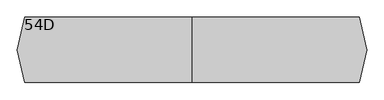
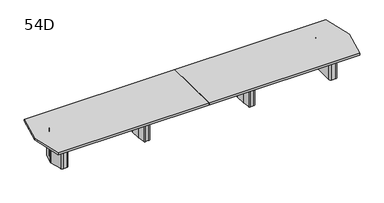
"""IFC4 building model written with IfcOpenShell, lengths in millimetres: furniture geometry, Coalesse_AM_Table_Conference_ETable2_Faceted_24ft_FourBase : 54D."""

from ifc_helpers import new_model, si_unit, frame, origin, place, context, project, spatial, polyline, circle_curve, outline, extrude, source, transform, mapped, element, save
from ifc_brep_helpers import plane_surface, cylinder_surface, revolved_surface, advanced_brep


def furniture_54d_43be985f(model_context):
    return source(origin(), model_context, "Body", "SolidModel", [
        advanced_brep(
        [(1254.91875, 206.375, 3.175), (1229.51875, 231.775, 3.175), (1208.88125, 231.775, 3.175), (1183.48125, 206.375, 3.175), (1183.48125, -206.375, 3.175), (1208.88125, -231.775, 3.175), (1229.51875, -231.775, 3.175), (1254.91875, -206.375, 3.175), (1158.08125, 206.375, 0.0), (1208.88125, 257.175, 0.0), (1229.51875, 257.175, 0.0), (1280.31875, 206.375, 0.0), (1280.31875, -206.375, 0.0), (1229.51875, -257.175, 0.0), (1208.88125, -257.175, 0.0), (1158.08125, -206.375, 0.0), (1158.08125, -206.375, 3.175), (1158.08125, 206.375, 3.175), (1208.88125, -257.175, 3.175), (1229.51875, -257.175, 3.175), (1280.31875, -206.375, 3.175), (1280.31875, 206.375, 3.175), (1229.51875, 257.175, 3.175), (1208.88125, 257.175, 3.175), (1126.5784026, 106.2976848, 698.5), (1126.33125, 102.7629613, 698.5), (1126.33125, -102.7629613, 698.5), (1126.5784026, -106.2976848, 698.5), (1151.4011625, -282.9347235, 698.5), (1176.5540098, -304.8, 698.5), (1261.8459902, -304.8, 698.5), (1286.9988375, -282.9347235, 698.5), (1311.8215974, -106.2976848, 698.5), (1312.06875, -102.7629613, 698.5), (1312.06875, 102.7629613, 698.5), (1311.8215974, 106.2976848, 698.5), (1286.9988375, 282.9347235, 698.5), (1261.8459902, 304.8, 698.5), (1176.5540098, 304.8, 698.5), (1151.4011625, 282.9347235, 698.5), (1229.51875, 231.775, 698.5), (1254.91875, 206.375, 698.5), (1254.91875, -206.375, 698.5), (1229.51875, -231.775, 698.5), (1208.88125, -231.775, 698.5), (1183.48125, -206.375, 698.5), (1183.48125, 206.375, 698.5), (1208.88125, 231.775, 698.5), (1126.5784026, 106.2976848, 3.175), (1151.4011625, 282.9347235, 3.175), (1176.5540098, 304.8, 3.175), (1261.8459902, 304.8, 3.175), (1286.9988375, 282.9347235, 3.175), (1311.8215974, 106.2976848, 3.175), (1312.06875, 102.7629613, 3.175), (1312.06875, -102.7629613, 3.175), (1311.8215974, -106.2976848, 3.175), (1286.9988375, -282.9347235, 3.175), (1261.8459902, -304.8, 3.175), (1176.5540098, -304.8, 3.175), (1151.4011625, -282.9347235, 3.175), (1126.5784026, -106.2976848, 3.175), (1126.33125, -102.7629613, 3.175), (1126.33125, 102.7629613, 3.175)],
        [
            (0, 1, circle_curve(frame((1229.51875, 206.375, 3.175), z_axis=(0.0, 0.0, 1.0), x_axis=(1.0, 0.0, 0.0)), 25.4)),
            (1, 2),
            (2, 3, circle_curve(frame((1208.88125, 206.375, 3.175), z_axis=(0.0, 0.0, 1.0), x_axis=(1.0, 0.0, 0.0)), 25.4)),
            (3, 4),
            (4, 5, circle_curve(frame((1208.88125, -206.375, 3.175), z_axis=(0.0, 0.0, 1.0), x_axis=(1.0, 0.0, 0.0)), 25.4)),
            (5, 6),
            (6, 7, circle_curve(frame((1229.51875, -206.375, 3.175), z_axis=(0.0, 0.0, 1.0), x_axis=(1.0, 0.0, 0.0)), 25.4)),
            (7, 0),
            (8, 9, circle_curve(frame((1208.88125, 206.375, 0.0), z_axis=(0.0, 0.0, -1.0), x_axis=(1.0, 0.0, 0.0)), 50.8)),
            (9, 10),
            (10, 11, circle_curve(frame((1229.51875, 206.375, 0.0), z_axis=(0.0, 0.0, -1.0), x_axis=(1.0, 0.0, 0.0)), 50.8)),
            (11, 12),
            (12, 13, circle_curve(frame((1229.51875, -206.375, 0.0), z_axis=(0.0, 0.0, -1.0), x_axis=(1.0, 0.0, 0.0)), 50.8)),
            (13, 14),
            (14, 15, circle_curve(frame((1208.88125, -206.375, 0.0), z_axis=(0.0, 0.0, -1.0), x_axis=(1.0, 0.0, 0.0)), 50.8)),
            (15, 8),
            (15, 16),
            (16, 17),
            (17, 8),
            (14, 18),
            (18, 16, circle_curve(frame((1208.88125, -206.375, 3.175), z_axis=(0.0, 0.0, -1.0), x_axis=(1.0, 0.0, 0.0)), 50.8)),
            (13, 19),
            (19, 18),
            (12, 20),
            (20, 19, circle_curve(frame((1229.51875, -206.375, 3.175), z_axis=(0.0, 0.0, -1.0), x_axis=(1.0, 0.0, 0.0)), 50.8)),
            (11, 21),
            (21, 20),
            (10, 22),
            (22, 21, circle_curve(frame((1229.51875, 206.375, 3.175), z_axis=(0.0, 0.0, -1.0), x_axis=(1.0, 0.0, 0.0)), 50.8)),
            (9, 23),
            (23, 22),
            (17, 23, circle_curve(frame((1208.88125, 206.375, 3.175), z_axis=(0.0, 0.0, -1.0), x_axis=(1.0, 0.0, 0.0)), 50.8)),
            (24, 25, circle_curve(frame((1151.73125, 102.7629613, 698.5), z_axis=(0.0, 0.0, 1.0), x_axis=(1.0, 0.0, 0.0)), 25.4)),
            (25, 26),
            (26, 27, circle_curve(frame((1151.73125, -102.7629613, 698.5), z_axis=(0.0, 0.0, 1.0), x_axis=(1.0, 0.0, 0.0)), 25.4)),
            (27, 28),
            (28, 29, circle_curve(frame((1176.5540098, -279.4, 698.5), z_axis=(0.0, 0.0, 1.0), x_axis=(1.0, 0.0, 0.0)), 25.4)),
            (29, 30),
            (30, 31, circle_curve(frame((1261.8459902, -279.4, 698.5), z_axis=(0.0, 0.0, 1.0), x_axis=(1.0, 0.0, 0.0)), 25.4)),
            (31, 32),
            (32, 33, circle_curve(frame((1286.66875, -102.7629613, 698.5), z_axis=(0.0, 0.0, 1.0), x_axis=(1.0, 0.0, 0.0)), 25.4)),
            (33, 34),
            (34, 35, circle_curve(frame((1286.66875, 102.7629613, 698.5), z_axis=(0.0, 0.0, 1.0), x_axis=(1.0, 0.0, 0.0)), 25.4)),
            (35, 36),
            (36, 37, circle_curve(frame((1261.8459902, 279.4, 698.5), z_axis=(0.0, 0.0, 1.0), x_axis=(1.0, 0.0, 0.0)), 25.4)),
            (37, 38),
            (38, 39, circle_curve(frame((1176.5540098, 279.4, 698.5), z_axis=(0.0, 0.0, 1.0), x_axis=(1.0, 0.0, 0.0)), 25.4)),
            (39, 24),
            (40, 41, circle_curve(frame((1229.51875, 206.375, 698.5), z_axis=(0.0, 0.0, -1.0), x_axis=(1.0, 0.0, 0.0)), 25.4)),
            (41, 42),
            (42, 43, circle_curve(frame((1229.51875, -206.375, 698.5), z_axis=(0.0, 0.0, -1.0), x_axis=(1.0, 0.0, 0.0)), 25.4)),
            (43, 44),
            (44, 45, circle_curve(frame((1208.88125, -206.375, 698.5), z_axis=(0.0, 0.0, -1.0), x_axis=(1.0, 0.0, 0.0)), 25.4)),
            (45, 46),
            (46, 47, circle_curve(frame((1208.88125, 206.375, 698.5), z_axis=(0.0, 0.0, -1.0), x_axis=(1.0, 0.0, 0.0)), 25.4)),
            (47, 40),
            (48, 49),
            (49, 50, circle_curve(frame((1176.5540098, 279.4, 3.175), z_axis=(0.0, 0.0, -1.0), x_axis=(1.0, 0.0, 0.0)), 25.4)),
            (50, 51),
            (51, 52, circle_curve(frame((1261.8459902, 279.4, 3.175), z_axis=(0.0, 0.0, -1.0), x_axis=(1.0, 0.0, 0.0)), 25.4)),
            (52, 53),
            (53, 54, circle_curve(frame((1286.66875, 102.7629613, 3.175), z_axis=(0.0, 0.0, -1.0), x_axis=(1.0, 0.0, 0.0)), 25.4)),
            (54, 55),
            (55, 56, circle_curve(frame((1286.66875, -102.7629613, 3.175), z_axis=(0.0, 0.0, -1.0), x_axis=(1.0, 0.0, 0.0)), 25.4)),
            (56, 57),
            (57, 58, circle_curve(frame((1261.8459902, -279.4, 3.175), z_axis=(0.0, 0.0, -1.0), x_axis=(1.0, 0.0, 0.0)), 25.4)),
            (58, 59),
            (59, 60, circle_curve(frame((1176.5540098, -279.4, 3.175), z_axis=(0.0, 0.0, -1.0), x_axis=(1.0, 0.0, 0.0)), 25.4)),
            (60, 61),
            (61, 62, circle_curve(frame((1151.73125, -102.7629613, 3.175), z_axis=(0.0, 0.0, -1.0), x_axis=(1.0, 0.0, 0.0)), 25.4)),
            (62, 63),
            (63, 48, circle_curve(frame((1151.73125, 102.7629613, 3.175), z_axis=(0.0, 0.0, -1.0), x_axis=(1.0, 0.0, 0.0)), 25.4)),
            (24, 48),
            (63, 25),
            (62, 26),
            (61, 27),
            (60, 28),
            (59, 29),
            (58, 30),
            (57, 31),
            (56, 32),
            (55, 33),
            (54, 34),
            (53, 35),
            (52, 36),
            (51, 37),
            (50, 38),
            (49, 39),
            (40, 1),
            (0, 41),
            (7, 42),
            (6, 43),
            (5, 44),
            (4, 45),
            (3, 46),
            (2, 47),
        ],
        [
            plane_surface(frame((1158.08125, -206.375, 3.175), z_axis=(0.0, 0.0, 1.0), x_axis=(0.0, -1.0, 0.0))),
            plane_surface(frame((1158.08125, -206.375, 0.0), z_axis=(0.0, 0.0, -1.0), x_axis=(0.0, 1.0, 0.0))),
            plane_surface(frame((1158.08125, 206.375, 3.175), z_axis=(-1.0, 0.0, 0.0), x_axis=(0.0, 0.0, -1.0))),
            cylinder_surface(frame((1208.88125, -206.375, 0.0), z_axis=(0.0, 0.0, 1.0), x_axis=(1.0, 0.0, 0.0)), 50.8),
            plane_surface(frame((1208.88125, -257.175, 3.175), z_axis=(0.0, -1.0, 0.0), x_axis=(0.0, 0.0, -1.0))),
            cylinder_surface(frame((1229.51875, -206.375, 0.0), z_axis=(0.0, 0.0, 1.0), x_axis=(1.0, 0.0, 0.0)), 50.8),
            plane_surface(frame((1280.31875, -206.375, 3.175), z_axis=(1.0, 0.0, 0.0), x_axis=(0.0, 0.0, -1.0))),
            cylinder_surface(frame((1229.51875, 206.375, 0.0), z_axis=(0.0, 0.0, 1.0), x_axis=(1.0, 0.0, 0.0)), 50.8),
            plane_surface(frame((1229.51875, 257.175, 3.175), z_axis=(0.0, 1.0, 0.0), x_axis=(0.0, 0.0, -1.0))),
            cylinder_surface(frame((1208.88125, 206.375, 0.0), z_axis=(0.0, 0.0, 1.0), x_axis=(1.0, 0.0, 0.0)), 50.8),
            plane_surface(frame((1177.13125, 102.7629613, 698.5), z_axis=(0.0, 0.0, 1.0), x_axis=(0.0, 1.0, 0.0))),
            plane_surface(frame((1177.13125, 102.7629613, 3.175), z_axis=(0.0, 0.0, -1.0), x_axis=(0.0, -1.0, 0.0))),
            cylinder_surface(frame((1151.73125, 102.7629613, 3.175), z_axis=(0.0, 0.0, 1.0), x_axis=(1.0, 0.0, 0.0)), 25.4),
            plane_surface(frame((1126.33125, 102.7629613, 698.5), z_axis=(-1.0, 0.0, 0.0), x_axis=(0.0, 0.0, -1.0))),
            cylinder_surface(frame((1151.73125, -102.7629613, 3.175), z_axis=(0.0, 0.0, 1.0), x_axis=(1.0, 0.0, 0.0)), 25.4),
            plane_surface(frame((1126.5784026, -106.2976848, 698.5), z_axis=(-0.9902695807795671, -0.13916234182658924, 0.0), x_axis=(0.0, 0.0, -1.0))),
            cylinder_surface(frame((1176.5540098, -279.4, 3.175), z_axis=(0.0, 0.0, 1.0), x_axis=(1.0, 0.0, 0.0)), 25.4),
            plane_surface(frame((1176.5540098, -304.8, 698.5), z_axis=(0.0, -1.0, 0.0), x_axis=(0.0, 0.0, -1.0))),
            cylinder_surface(frame((1261.8459902, -279.4, 3.175), z_axis=(0.0, 0.0, 1.0), x_axis=(1.0, 0.0, 0.0)), 25.4),
            plane_surface(frame((1286.9988375, -282.9347235, 698.5), z_axis=(0.9902695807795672, -0.13916234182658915, 0.0), x_axis=(0.0, 0.0, -1.0))),
            cylinder_surface(frame((1286.66875, -102.7629613, 3.175), z_axis=(0.0, 0.0, 1.0), x_axis=(1.0, 0.0, 0.0)), 25.4),
            plane_surface(frame((1312.06875, -102.7629613, 698.5), z_axis=(1.0, 0.0, 0.0), x_axis=(0.0, 0.0, -1.0))),
            cylinder_surface(frame((1286.66875, 102.7629613, 3.175), z_axis=(0.0, 0.0, 1.0), x_axis=(1.0, 0.0, 0.0)), 25.4),
            plane_surface(frame((1311.8215974, 106.2976848, 698.5), z_axis=(0.9902695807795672, 0.1391623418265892, 0.0), x_axis=(0.0, 0.0, -1.0))),
            cylinder_surface(frame((1261.8459902, 279.4, 3.175), z_axis=(0.0, 0.0, 1.0), x_axis=(1.0, 0.0, 0.0)), 25.4),
            plane_surface(frame((1261.8459902, 304.8, 698.5), z_axis=(0.0, 1.0, 0.0), x_axis=(0.0, 0.0, -1.0))),
            cylinder_surface(frame((1176.5540098, 279.4, 3.175), z_axis=(0.0, 0.0, 1.0), x_axis=(1.0, 0.0, 0.0)), 25.4),
            plane_surface(frame((1151.4011625, 282.9347235, 698.5), z_axis=(-0.9902695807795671, 0.13916234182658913, 0.0), x_axis=(0.0, 0.0, -1.0))),
            revolved_surface(polyline([(1254.91875, 206.375, 3.175), (1254.91875, 206.375, 698.5)]), (1229.51875, 206.375, 0.0), (0.0, 0.0, -1.0)),
            plane_surface(frame((1254.91875, 206.375, 698.5), z_axis=(-1.0, 0.0, 0.0), x_axis=(0.0, 0.0, -1.0))),
            revolved_surface(polyline([(1254.91875, -206.375, 3.175), (1254.91875, -206.375, 698.5)]), (1229.51875, -206.375, 0.0), (0.0, 0.0, -1.0)),
            plane_surface(frame((1229.51875, -231.775, 698.5), z_axis=(0.0, 1.0, 0.0), x_axis=(0.0, 0.0, -1.0))),
            revolved_surface(polyline([(1234.28125, -206.375, 3.175), (1234.28125, -206.375, 698.5)]), (1208.88125, -206.375, 0.0), (0.0, 0.0, -1.0)),
            plane_surface(frame((1183.48125, -206.375, 698.5), z_axis=(1.0, 0.0, 0.0), x_axis=(0.0, 0.0, -1.0))),
            revolved_surface(polyline([(1234.28125, 206.375, 3.175), (1234.28125, 206.375, 698.5)]), (1208.88125, 206.375, 0.0), (0.0, 0.0, -1.0)),
            plane_surface(frame((1208.88125, 231.775, 698.5), z_axis=(0.0, -1.0, 0.0), x_axis=(0.0, 0.0, -1.0))),
        ],
        [
            (0, [[1, 2, 3, 4, 5, 6, 7, 8]]),
            (1, [[9, 10, 11, 12, 13, 14, 15, 16]]),
            (2, [[-16, 17, 18, 19]]),
            (3, [[-15, 20, 21, -17]]),
            (4, [[-14, 22, 23, -20]]),
            (5, [[-13, 24, 25, -22]]),
            (6, [[-12, 26, 27, -24]]),
            (7, [[-11, 28, 29, -26]]),
            (8, [[-10, 30, 31, -28]]),
            (9, [[-9, -19, 32, -30]]),
            (10, [[33, 34, 35, 36, 37, 38, 39, 40, 41, 42, 43, 44, 45, 46, 47, 48], [49, 50, 51, 52, 53, 54, 55, 56]]),
            (11, [[57, 58, 59, 60, 61, 62, 63, 64, 65, 66, 67, 68, 69, 70, 71, 72], [-18, -21, -23, -25, -27, -29, -31, -32]]),
            (12, [[-33, 73, -72, 74]]),
            (13, [[-34, -74, -71, 75]]),
            (14, [[-35, -75, -70, 76]]),
            (15, [[-36, -76, -69, 77]]),
            (16, [[-37, -77, -68, 78]]),
            (17, [[-38, -78, -67, 79]]),
            (18, [[-39, -79, -66, 80]]),
            (19, [[-40, -80, -65, 81]]),
            (20, [[-41, -81, -64, 82]]),
            (21, [[-42, -82, -63, 83]]),
            (22, [[-43, -83, -62, 84]]),
            (23, [[-44, -84, -61, 85]]),
            (24, [[-45, -85, -60, 86]]),
            (25, [[-46, -86, -59, 87]]),
            (26, [[-47, -87, -58, 88]]),
            (27, [[-48, -88, -57, -73]]),
            (28, [[-49, 89, -1, 90]]),
            (29, [[-50, -90, -8, 91]]),
            (30, [[-51, -91, -7, 92]]),
            (31, [[-52, -92, -6, 93]]),
            (32, [[-53, -93, -5, 94]]),
            (33, [[-54, -94, -4, 95]]),
            (34, [[-55, -95, -3, 96]]),
            (35, [[-56, -96, -2, -89]]),
        ],
    ),
        advanced_brep(
        [(-1183.48125, 206.375, 3.175), (-1208.88125, 231.775, 3.175), (-1229.51875, 231.775, 3.175), (-1254.91875, 206.375, 3.175), (-1254.91875, -206.375, 3.175), (-1229.51875, -231.775, 3.175), (-1208.88125, -231.775, 3.175), (-1183.48125, -206.375, 3.175), (-1280.31875, 206.375, 0.0), (-1229.51875, 257.175, 0.0), (-1208.88125, 257.175, 0.0), (-1158.08125, 206.375, 0.0), (-1158.08125, -206.375, 0.0), (-1208.88125, -257.175, 0.0), (-1229.51875, -257.175, 0.0), (-1280.31875, -206.375, 0.0), (-1280.31875, -206.375, 3.175), (-1280.31875, 206.375, 3.175), (-1229.51875, -257.175, 3.175), (-1208.88125, -257.175, 3.175), (-1158.08125, -206.375, 3.175), (-1158.08125, 206.375, 3.175), (-1208.88125, 257.175, 3.175), (-1229.51875, 257.175, 3.175), (-1311.8215974, 106.2976848, 698.5), (-1312.06875, 102.7629613, 698.5), (-1312.06875, -102.7629613, 698.5), (-1311.8215974, -106.2976848, 698.5), (-1286.9988375, -282.9347235, 698.5), (-1261.8459902, -304.8, 698.5), (-1176.5540098, -304.8, 698.5), (-1151.4011625, -282.9347235, 698.5), (-1126.5784026, -106.2976848, 698.5), (-1126.33125, -102.7629613, 698.5), (-1126.33125, 102.7629613, 698.5), (-1126.5784026, 106.2976848, 698.5), (-1151.4011625, 282.9347235, 698.5), (-1176.5540098, 304.8, 698.5), (-1261.8459902, 304.8, 698.5), (-1286.9988375, 282.9347235, 698.5), (-1208.88125, 231.775, 698.5), (-1183.48125, 206.375, 698.5), (-1183.48125, -206.375, 698.5), (-1208.88125, -231.775, 698.5), (-1229.51875, -231.775, 698.5), (-1254.91875, -206.375, 698.5), (-1254.91875, 206.375, 698.5), (-1229.51875, 231.775, 698.5), (-1311.8215974, 106.2976848, 3.175), (-1286.9988375, 282.9347235, 3.175), (-1261.8459902, 304.8, 3.175), (-1176.5540098, 304.8, 3.175), (-1151.4011625, 282.9347235, 3.175), (-1126.5784026, 106.2976848, 3.175), (-1126.33125, 102.7629613, 3.175), (-1126.33125, -102.7629613, 3.175), (-1126.5784026, -106.2976848, 3.175), (-1151.4011625, -282.9347235, 3.175), (-1176.5540098, -304.8, 3.175), (-1261.8459902, -304.8, 3.175), (-1286.9988375, -282.9347235, 3.175), (-1311.8215974, -106.2976848, 3.175), (-1312.06875, -102.7629613, 3.175), (-1312.06875, 102.7629613, 3.175)],
        [
            (0, 1, circle_curve(frame((-1208.88125, 206.375, 3.175), z_axis=(0.0, 0.0, 1.0), x_axis=(1.0, 0.0, 0.0)), 25.4)),
            (1, 2),
            (2, 3, circle_curve(frame((-1229.51875, 206.375, 3.175), z_axis=(0.0, 0.0, 1.0), x_axis=(1.0, 0.0, 0.0)), 25.4)),
            (3, 4),
            (4, 5, circle_curve(frame((-1229.51875, -206.375, 3.175), z_axis=(0.0, 0.0, 1.0), x_axis=(1.0, 0.0, 0.0)), 25.4)),
            (5, 6),
            (6, 7, circle_curve(frame((-1208.88125, -206.375, 3.175), z_axis=(0.0, 0.0, 1.0), x_axis=(1.0, 0.0, 0.0)), 25.4)),
            (7, 0),
            (8, 9, circle_curve(frame((-1229.51875, 206.375, 0.0), z_axis=(0.0, 0.0, -1.0), x_axis=(1.0, 0.0, 0.0)), 50.8)),
            (9, 10),
            (10, 11, circle_curve(frame((-1208.88125, 206.375, 0.0), z_axis=(0.0, 0.0, -1.0), x_axis=(1.0, 0.0, 0.0)), 50.8)),
            (11, 12),
            (12, 13, circle_curve(frame((-1208.88125, -206.375, 0.0), z_axis=(0.0, 0.0, -1.0), x_axis=(1.0, 0.0, 0.0)), 50.8)),
            (13, 14),
            (14, 15, circle_curve(frame((-1229.51875, -206.375, 0.0), z_axis=(0.0, 0.0, -1.0), x_axis=(1.0, 0.0, 0.0)), 50.8)),
            (15, 8),
            (15, 16),
            (16, 17),
            (17, 8),
            (14, 18),
            (18, 16, circle_curve(frame((-1229.51875, -206.375, 3.175), z_axis=(0.0, 0.0, -1.0), x_axis=(1.0, 0.0, 0.0)), 50.8)),
            (13, 19),
            (19, 18),
            (12, 20),
            (20, 19, circle_curve(frame((-1208.88125, -206.375, 3.175), z_axis=(0.0, 0.0, -1.0), x_axis=(1.0, 0.0, 0.0)), 50.8)),
            (11, 21),
            (21, 20),
            (10, 22),
            (22, 21, circle_curve(frame((-1208.88125, 206.375, 3.175), z_axis=(0.0, 0.0, -1.0), x_axis=(1.0, 0.0, 0.0)), 50.8)),
            (9, 23),
            (23, 22),
            (17, 23, circle_curve(frame((-1229.51875, 206.375, 3.175), z_axis=(0.0, 0.0, -1.0), x_axis=(1.0, 0.0, 0.0)), 50.8)),
            (24, 25, circle_curve(frame((-1286.66875, 102.7629613, 698.5), z_axis=(0.0, 0.0, 1.0), x_axis=(1.0, 0.0, 0.0)), 25.4)),
            (25, 26),
            (26, 27, circle_curve(frame((-1286.66875, -102.7629613, 698.5), z_axis=(0.0, 0.0, 1.0), x_axis=(1.0, 0.0, 0.0)), 25.4)),
            (27, 28),
            (28, 29, circle_curve(frame((-1261.8459902, -279.4, 698.5), z_axis=(0.0, 0.0, 1.0), x_axis=(1.0, 0.0, 0.0)), 25.4)),
            (29, 30),
            (30, 31, circle_curve(frame((-1176.5540098, -279.4, 698.5), z_axis=(0.0, 0.0, 1.0), x_axis=(1.0, 0.0, 0.0)), 25.4)),
            (31, 32),
            (32, 33, circle_curve(frame((-1151.73125, -102.7629613, 698.5), z_axis=(0.0, 0.0, 1.0), x_axis=(1.0, 0.0, 0.0)), 25.4)),
            (33, 34),
            (34, 35, circle_curve(frame((-1151.73125, 102.7629613, 698.5), z_axis=(0.0, 0.0, 1.0), x_axis=(1.0, 0.0, 0.0)), 25.4)),
            (35, 36),
            (36, 37, circle_curve(frame((-1176.5540098, 279.4, 698.5), z_axis=(0.0, 0.0, 1.0), x_axis=(1.0, 0.0, 0.0)), 25.4)),
            (37, 38),
            (38, 39, circle_curve(frame((-1261.8459902, 279.4, 698.5), z_axis=(0.0, 0.0, 1.0), x_axis=(1.0, 0.0, 0.0)), 25.4)),
            (39, 24),
            (40, 41, circle_curve(frame((-1208.88125, 206.375, 698.5), z_axis=(0.0, 0.0, -1.0), x_axis=(1.0, 0.0, 0.0)), 25.4)),
            (41, 42),
            (42, 43, circle_curve(frame((-1208.88125, -206.375, 698.5), z_axis=(0.0, 0.0, -1.0), x_axis=(1.0, 0.0, 0.0)), 25.4)),
            (43, 44),
            (44, 45, circle_curve(frame((-1229.51875, -206.375, 698.5), z_axis=(0.0, 0.0, -1.0), x_axis=(1.0, 0.0, 0.0)), 25.4)),
            (45, 46),
            (46, 47, circle_curve(frame((-1229.51875, 206.375, 698.5), z_axis=(0.0, 0.0, -1.0), x_axis=(1.0, 0.0, 0.0)), 25.4)),
            (47, 40),
            (48, 49),
            (49, 50, circle_curve(frame((-1261.8459902, 279.4, 3.175), z_axis=(0.0, 0.0, -1.0), x_axis=(1.0, 0.0, 0.0)), 25.4)),
            (50, 51),
            (51, 52, circle_curve(frame((-1176.5540098, 279.4, 3.175), z_axis=(0.0, 0.0, -1.0), x_axis=(1.0, 0.0, 0.0)), 25.4)),
            (52, 53),
            (53, 54, circle_curve(frame((-1151.73125, 102.7629613, 3.175), z_axis=(0.0, 0.0, -1.0), x_axis=(1.0, 0.0, 0.0)), 25.4)),
            (54, 55),
            (55, 56, circle_curve(frame((-1151.73125, -102.7629613, 3.175), z_axis=(0.0, 0.0, -1.0), x_axis=(1.0, 0.0, 0.0)), 25.4)),
            (56, 57),
            (57, 58, circle_curve(frame((-1176.5540098, -279.4, 3.175), z_axis=(0.0, 0.0, -1.0), x_axis=(1.0, 0.0, 0.0)), 25.4)),
            (58, 59),
            (59, 60, circle_curve(frame((-1261.8459902, -279.4, 3.175), z_axis=(0.0, 0.0, -1.0), x_axis=(1.0, 0.0, 0.0)), 25.4)),
            (60, 61),
            (61, 62, circle_curve(frame((-1286.66875, -102.7629613, 3.175), z_axis=(0.0, 0.0, -1.0), x_axis=(1.0, 0.0, 0.0)), 25.4)),
            (62, 63),
            (63, 48, circle_curve(frame((-1286.66875, 102.7629613, 3.175), z_axis=(0.0, 0.0, -1.0), x_axis=(1.0, 0.0, 0.0)), 25.4)),
            (24, 48),
            (63, 25),
            (62, 26),
            (61, 27),
            (60, 28),
            (59, 29),
            (58, 30),
            (57, 31),
            (56, 32),
            (55, 33),
            (54, 34),
            (53, 35),
            (52, 36),
            (51, 37),
            (50, 38),
            (49, 39),
            (40, 1),
            (0, 41),
            (7, 42),
            (6, 43),
            (5, 44),
            (4, 45),
            (3, 46),
            (2, 47),
        ],
        [
            plane_surface(frame((-1280.31875, -206.375, 3.175), z_axis=(0.0, 0.0, 1.0), x_axis=(0.0, -1.0, 0.0))),
            plane_surface(frame((-1280.31875, -206.375, 0.0), z_axis=(0.0, 0.0, -1.0), x_axis=(0.0, 1.0, 0.0))),
            plane_surface(frame((-1280.31875, 206.375, 3.175), z_axis=(-1.0, 0.0, 0.0), x_axis=(0.0, 0.0, -1.0))),
            cylinder_surface(frame((-1229.51875, -206.375, 0.0), z_axis=(0.0, 0.0, 1.0), x_axis=(1.0, 0.0, 0.0)), 50.8),
            plane_surface(frame((-1229.51875, -257.175, 3.175), z_axis=(0.0, -1.0, 0.0), x_axis=(0.0, 0.0, -1.0))),
            cylinder_surface(frame((-1208.88125, -206.375, 0.0), z_axis=(0.0, 0.0, 1.0), x_axis=(1.0, 0.0, 0.0)), 50.8),
            plane_surface(frame((-1158.08125, -206.375, 3.175), z_axis=(1.0, 0.0, 0.0), x_axis=(0.0, 0.0, -1.0))),
            cylinder_surface(frame((-1208.88125, 206.375, 0.0), z_axis=(0.0, 0.0, 1.0), x_axis=(1.0, 0.0, 0.0)), 50.8),
            plane_surface(frame((-1208.88125, 257.175, 3.175), z_axis=(0.0, 1.0, 0.0), x_axis=(0.0, 0.0, -1.0))),
            cylinder_surface(frame((-1229.51875, 206.375, 0.0), z_axis=(0.0, 0.0, 1.0), x_axis=(1.0, 0.0, 0.0)), 50.8),
            plane_surface(frame((-1261.26875, 102.7629613, 698.5), z_axis=(0.0, 0.0, 1.0), x_axis=(0.0, 1.0, 0.0))),
            plane_surface(frame((-1261.26875, 102.7629613, 3.175), z_axis=(0.0, 0.0, -1.0), x_axis=(0.0, -1.0, 0.0))),
            cylinder_surface(frame((-1286.66875, 102.7629613, 3.175), z_axis=(0.0, 0.0, 1.0), x_axis=(1.0, 0.0, 0.0)), 25.4),
            plane_surface(frame((-1312.06875, 102.7629613, 698.5), z_axis=(-1.0, 0.0, 0.0), x_axis=(0.0, 0.0, -1.0))),
            cylinder_surface(frame((-1286.66875, -102.7629613, 3.175), z_axis=(0.0, 0.0, 1.0), x_axis=(1.0, 0.0, 0.0)), 25.4),
            plane_surface(frame((-1311.8215974, -106.2976848, 698.5), z_axis=(-0.9902695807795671, -0.13916234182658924, 0.0), x_axis=(0.0, 0.0, -1.0))),
            cylinder_surface(frame((-1261.8459902, -279.4, 3.175), z_axis=(0.0, 0.0, 1.0), x_axis=(1.0, 0.0, 0.0)), 25.4),
            plane_surface(frame((-1261.8459902, -304.8, 698.5), z_axis=(0.0, -1.0, 0.0), x_axis=(0.0, 0.0, -1.0))),
            cylinder_surface(frame((-1176.5540098, -279.4, 3.175), z_axis=(0.0, 0.0, 1.0), x_axis=(1.0, 0.0, 0.0)), 25.4),
            plane_surface(frame((-1151.4011625, -282.9347235, 698.5), z_axis=(0.9902695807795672, -0.13916234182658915, 0.0), x_axis=(0.0, 0.0, -1.0))),
            cylinder_surface(frame((-1151.73125, -102.7629613, 3.175), z_axis=(0.0, 0.0, 1.0), x_axis=(1.0, 0.0, 0.0)), 25.4),
            plane_surface(frame((-1126.33125, -102.7629613, 698.5), z_axis=(1.0, 0.0, 0.0), x_axis=(0.0, 0.0, -1.0))),
            cylinder_surface(frame((-1151.73125, 102.7629613, 3.175), z_axis=(0.0, 0.0, 1.0), x_axis=(1.0, 0.0, 0.0)), 25.4),
            plane_surface(frame((-1126.5784026, 106.2976848, 698.5), z_axis=(0.9902695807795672, 0.1391623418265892, 0.0), x_axis=(0.0, 0.0, -1.0))),
            cylinder_surface(frame((-1176.5540098, 279.4, 3.175), z_axis=(0.0, 0.0, 1.0), x_axis=(1.0, 0.0, 0.0)), 25.4),
            plane_surface(frame((-1176.5540098, 304.8, 698.5), z_axis=(0.0, 1.0, 0.0), x_axis=(0.0, 0.0, -1.0))),
            cylinder_surface(frame((-1261.8459902, 279.4, 3.175), z_axis=(0.0, 0.0, 1.0), x_axis=(1.0, 0.0, 0.0)), 25.4),
            plane_surface(frame((-1286.9988375, 282.9347235, 698.5), z_axis=(-0.9902695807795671, 0.13916234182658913, 0.0), x_axis=(0.0, 0.0, -1.0))),
            revolved_surface(polyline([(-1183.4812499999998, 206.375, 3.175), (-1183.4812499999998, 206.375, 698.5)]), (-1208.88125, 206.375, 0.0), (0.0, 0.0, -1.0)),
            plane_surface(frame((-1183.48125, 206.375, 698.5), z_axis=(-1.0, 0.0, 0.0), x_axis=(0.0, 0.0, -1.0))),
            revolved_surface(polyline([(-1183.4812499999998, -206.375, 3.175), (-1183.4812499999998, -206.375, 698.5)]), (-1208.88125, -206.375, 0.0), (0.0, 0.0, -1.0)),
            plane_surface(frame((-1208.88125, -231.775, 698.5), z_axis=(0.0, 1.0, 0.0), x_axis=(0.0, 0.0, -1.0))),
            revolved_surface(polyline([(-1204.1187499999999, -206.375, 3.175), (-1204.1187499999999, -206.375, 698.5)]), (-1229.51875, -206.375, 0.0), (0.0, 0.0, -1.0)),
            plane_surface(frame((-1254.91875, -206.375, 698.5), z_axis=(1.0, 0.0, 0.0), x_axis=(0.0, 0.0, -1.0))),
            revolved_surface(polyline([(-1204.1187499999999, 206.375, 3.175), (-1204.1187499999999, 206.375, 698.5)]), (-1229.51875, 206.375, 0.0), (0.0, 0.0, -1.0)),
            plane_surface(frame((-1229.51875, 231.775, 698.5), z_axis=(0.0, -1.0, 0.0), x_axis=(0.0, 0.0, -1.0))),
        ],
        [
            (0, [[1, 2, 3, 4, 5, 6, 7, 8]]),
            (1, [[9, 10, 11, 12, 13, 14, 15, 16]]),
            (2, [[-16, 17, 18, 19]]),
            (3, [[-15, 20, 21, -17]]),
            (4, [[-14, 22, 23, -20]]),
            (5, [[-13, 24, 25, -22]]),
            (6, [[-12, 26, 27, -24]]),
            (7, [[-11, 28, 29, -26]]),
            (8, [[-10, 30, 31, -28]]),
            (9, [[-9, -19, 32, -30]]),
            (10, [[33, 34, 35, 36, 37, 38, 39, 40, 41, 42, 43, 44, 45, 46, 47, 48], [49, 50, 51, 52, 53, 54, 55, 56]]),
            (11, [[57, 58, 59, 60, 61, 62, 63, 64, 65, 66, 67, 68, 69, 70, 71, 72], [-18, -21, -23, -25, -27, -29, -31, -32]]),
            (12, [[-33, 73, -72, 74]]),
            (13, [[-34, -74, -71, 75]]),
            (14, [[-35, -75, -70, 76]]),
            (15, [[-36, -76, -69, 77]]),
            (16, [[-37, -77, -68, 78]]),
            (17, [[-38, -78, -67, 79]]),
            (18, [[-39, -79, -66, 80]]),
            (19, [[-40, -80, -65, 81]]),
            (20, [[-41, -81, -64, 82]]),
            (21, [[-42, -82, -63, 83]]),
            (22, [[-43, -83, -62, 84]]),
            (23, [[-44, -84, -61, 85]]),
            (24, [[-45, -85, -60, 86]]),
            (25, [[-46, -86, -59, 87]]),
            (26, [[-47, -87, -58, 88]]),
            (27, [[-48, -88, -57, -73]]),
            (28, [[-49, 89, -1, 90]]),
            (29, [[-50, -90, -8, 91]]),
            (30, [[-51, -91, -7, 92]]),
            (31, [[-52, -92, -6, 93]]),
            (32, [[-53, -93, -5, 94]]),
            (33, [[-54, -94, -4, 95]]),
            (34, [[-55, -95, -3, 96]]),
            (35, [[-56, -96, -2, -89]]),
        ],
    ),
        advanced_brep(
        [(3199.024548, 274.2093613, 698.5), (3159.1579246, 304.8, 698.5), (3070.225, 304.8, 698.5), (3028.95, 263.525, 698.5), (3028.95, -263.525, 698.5), (3070.225, -304.8, 698.5), (3159.1579246, -304.8, 698.5), (3199.024548, -274.2093613, 698.5), (3269.6503901, -10.6333708, 698.5), (3269.6503901, 10.6333708, 698.5), (3067.05, -206.375, 698.5), (3067.05, 206.375, 698.5), (3092.45, 231.775, 698.5), (3151.4608422, 231.775, 698.5), (3175.995338, 212.9490792, 698.5), (3214.6875, 68.54974, 698.5), (3214.6875, -68.54974, 698.5), (3175.995338, -212.9490792, 698.5), (3151.4608422, -231.775, 698.5), (3092.45, -231.775, 698.5), (3199.024548, 274.2093613, 3.175), (3269.6503901, 10.6333708, 3.175), (3269.6503901, -10.6333708, 3.175), (3199.024548, -274.2093613, 3.175), (3159.1579246, -304.8, 3.175), (3070.225, -304.8, 3.175), (3028.95, -263.525, 3.175), (3028.95, 263.525, 3.175), (3070.225, 304.8, 3.175), (3159.1579246, 304.8, 3.175), (3188.2625859, 216.2361187, 3.175), (3151.4608422, 244.475, 3.175), (3092.45, 244.475, 3.175), (3054.35, 206.375, 3.175), (3054.35, -206.375, 3.175), (3092.45, -244.475, 3.175), (3151.4608422, -244.475, 3.175), (3188.2625859, -216.2361187, 3.175), (3227.3875, -70.2217466, 3.175), (3227.3875, 70.2217466, 3.175), (3092.45, -231.775, 3.175), (3067.05, -206.375, 3.175), (3151.4608422, -231.775, 3.175), (3175.995338, -212.9490792, 3.175), (3214.6875, -68.54974, 3.175), (3214.6875, 68.54974, 3.175), (3175.995338, 212.9490792, 3.175), (3151.4608422, 231.775, 3.175), (3092.45, 231.775, 3.175), (3067.05, 206.375, 3.175), (3188.2625859, 216.2361187, 0.0), (3227.3875, 70.2217466, 0.0), (3227.3875, -70.2217466, 0.0), (3188.2625859, -216.2361187, 0.0), (3151.4608422, -244.475, 0.0), (3092.45, -244.475, 0.0), (3054.35, -206.375, 0.0), (3054.35, 206.375, 0.0), (3092.45, 244.475, 0.0), (3151.4608422, 244.475, 0.0)],
        [
            (0, 1, circle_curve(frame((3159.1579246, 263.5270004, 698.5), z_axis=(0.0, 0.0, 1.0), x_axis=(-1.0, 0.0, 0.0)), 41.2729996)),
            (1, 2),
            (2, 3, circle_curve(frame((3070.225, 263.525, 698.5), z_axis=(0.0, 0.0, 1.0), x_axis=(-1.0, 0.0, 0.0)), 41.275)),
            (3, 4),
            (4, 5, circle_curve(frame((3070.225, -263.525, 698.5), z_axis=(0.0, 0.0, 1.0), x_axis=(-1.0, 0.0, 0.0)), 41.275)),
            (5, 6),
            (6, 7, circle_curve(frame((3159.1579246, -263.5270004, 698.5), z_axis=(0.0, 0.0, 1.0), x_axis=(-1.0, 0.0, 0.0)), 41.2729996)),
            (7, 8),
            (8, 9, circle_curve(frame((3229.9665979, 0.0, 698.5), z_axis=(0.0, 0.0, 1.0), x_axis=(-1.0, 0.0, 0.0)), 41.0837187)),
            (9, 0),
            (10, 11),
            (11, 12, circle_curve(frame((3092.45, 206.375, 698.5), z_axis=(0.0, 0.0, -1.0), x_axis=(-1.0, 0.0, 0.0)), 25.4)),
            (12, 13),
            (13, 14, circle_curve(frame((3151.4608422, 206.375, 698.5), z_axis=(0.0, 0.0, -1.0), x_axis=(-1.0, 0.0, 0.0)), 25.4)),
            (14, 15),
            (15, 16),
            (16, 17),
            (17, 18, circle_curve(frame((3151.4608422, -206.375, 698.5), z_axis=(0.0, 0.0, -1.0), x_axis=(-1.0, 0.0, 0.0)), 25.4)),
            (18, 19),
            (19, 10, circle_curve(frame((3092.45, -206.375, 698.5), z_axis=(0.0, 0.0, -1.0), x_axis=(-1.0, 0.0, 0.0)), 25.4)),
            (20, 21),
            (21, 22, circle_curve(frame((3229.9665979, 0.0, 3.175), z_axis=(0.0, 0.0, -1.0), x_axis=(-1.0, 0.0, 0.0)), 41.0837187)),
            (22, 23),
            (23, 24, circle_curve(frame((3159.1579246, -263.5270004, 3.175), z_axis=(0.0, 0.0, -1.0), x_axis=(-1.0, 0.0, 0.0)), 41.2729996)),
            (24, 25),
            (25, 26, circle_curve(frame((3070.225, -263.525, 3.175), z_axis=(0.0, 0.0, -1.0), x_axis=(-1.0, 0.0, 0.0)), 41.275)),
            (26, 27),
            (27, 28, circle_curve(frame((3070.225, 263.525, 3.175), z_axis=(0.0, 0.0, -1.0), x_axis=(-1.0, 0.0, 0.0)), 41.275)),
            (28, 29),
            (29, 20, circle_curve(frame((3159.1579246, 263.5270004, 3.175), z_axis=(0.0, 0.0, -1.0), x_axis=(-1.0, 0.0, 0.0)), 41.2729996)),
            (30, 31, circle_curve(frame((3151.4608422, 206.375, 3.175), z_axis=(0.0, 0.0, 1.0), x_axis=(-1.0, 0.0, 0.0)), 38.1)),
            (31, 32),
            (32, 33, circle_curve(frame((3092.45, 206.375, 3.175), z_axis=(0.0, 0.0, 1.0), x_axis=(-1.0, 0.0, 0.0)), 38.1)),
            (33, 34),
            (34, 35, circle_curve(frame((3092.45, -206.375, 3.175), z_axis=(0.0, 0.0, 1.0), x_axis=(-1.0, 0.0, 0.0)), 38.1)),
            (35, 36),
            (36, 37, circle_curve(frame((3151.4608422, -206.375, 3.175), z_axis=(0.0, 0.0, 1.0), x_axis=(-1.0, 0.0, 0.0)), 38.1)),
            (37, 38),
            (38, 39),
            (39, 30),
            (9, 21),
            (20, 0),
            (8, 22),
            (7, 23),
            (6, 24),
            (5, 25),
            (4, 26),
            (3, 27),
            (2, 28),
            (1, 29),
            (19, 40),
            (40, 41, circle_curve(frame((3092.45, -206.375, 3.175), z_axis=(0.0, 0.0, -1.0), x_axis=(-1.0, 0.0, 0.0)), 25.4)),
            (41, 10),
            (18, 42),
            (42, 40),
            (17, 43),
            (43, 42, circle_curve(frame((3151.4608422, -206.375, 3.175), z_axis=(0.0, 0.0, -1.0), x_axis=(-1.0, 0.0, 0.0)), 25.4)),
            (16, 44),
            (44, 43),
            (15, 45),
            (45, 44),
            (14, 46),
            (46, 45),
            (13, 47),
            (47, 46, circle_curve(frame((3151.4608422, 206.375, 3.175), z_axis=(0.0, 0.0, -1.0), x_axis=(-1.0, 0.0, 0.0)), 25.4)),
            (12, 48),
            (48, 47),
            (11, 49),
            (49, 48, circle_curve(frame((3092.45, 206.375, 3.175), z_axis=(0.0, 0.0, -1.0), x_axis=(-1.0, 0.0, 0.0)), 25.4)),
            (41, 49),
            (50, 51),
            (51, 52),
            (52, 53),
            (53, 54, circle_curve(frame((3151.4608422, -206.375, 0.0), z_axis=(0.0, 0.0, -1.0), x_axis=(-1.0, 0.0, 0.0)), 38.1)),
            (54, 55),
            (55, 56, circle_curve(frame((3092.45, -206.375, 0.0), z_axis=(0.0, 0.0, -1.0), x_axis=(-1.0, 0.0, 0.0)), 38.1)),
            (56, 57),
            (57, 58, circle_curve(frame((3092.45, 206.375, 0.0), z_axis=(0.0, 0.0, -1.0), x_axis=(-1.0, 0.0, 0.0)), 38.1)),
            (58, 59),
            (59, 50, circle_curve(frame((3151.4608422, 206.375, 0.0), z_axis=(0.0, 0.0, -1.0), x_axis=(-1.0, 0.0, 0.0)), 38.1)),
            (50, 30),
            (39, 51),
            (38, 52),
            (37, 53),
            (36, 54),
            (35, 55),
            (34, 56),
            (33, 57),
            (32, 58),
            (31, 59),
        ],
        [
            plane_surface(frame((3269.6374275, 10.6817473, 698.5), z_axis=(0.0, 0.0, 1.0000000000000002), x_axis=(0.25882201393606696, -0.9659250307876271, 0.0))),
            plane_surface(frame((3269.6374275, 10.6817473, 3.175), z_axis=(0.0, 0.0, -1.0000000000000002), x_axis=(-0.25882201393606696, 0.9659250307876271, 0.0))),
            plane_surface(frame((3199.024548, 274.2093613, 698.5), z_axis=(0.9659250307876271, 0.25882201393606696, 0.0), x_axis=(0.0, 0.0, -1.0))),
            cylinder_surface(frame((3229.9665979, 0.0, 3.175), z_axis=(0.0, 0.0, 1.0), x_axis=(-1.0, 0.0, 0.0)), 41.0837187),
            plane_surface(frame((3269.6503901, -10.6333708, 698.5), z_axis=(0.9659250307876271, -0.2588220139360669, 0.0), x_axis=(0.0, 0.0, -1.0))),
            cylinder_surface(frame((3159.1579246, -263.5270004, 3.175), z_axis=(0.0, 0.0, 1.0), x_axis=(-1.0, 0.0, 0.0)), 41.2729996),
            plane_surface(frame((3159.1579246, -304.8, 698.5), z_axis=(0.0, -1.0, 0.0), x_axis=(0.0, 0.0, -1.0))),
            cylinder_surface(frame((3070.225, -263.525, 3.175), z_axis=(0.0, 0.0, 1.0), x_axis=(-1.0, 0.0, 0.0)), 41.275),
            plane_surface(frame((3028.95, -263.525, 698.5), z_axis=(-1.0, 0.0, 0.0), x_axis=(0.0, 0.0, -1.0))),
            cylinder_surface(frame((3070.225, 263.525, 3.175), z_axis=(0.0, 0.0, 1.0), x_axis=(-1.0, 0.0, 0.0)), 41.275),
            plane_surface(frame((3070.225, 304.8, 698.5), z_axis=(0.0, 1.0, 0.0), x_axis=(0.0, 0.0, -1.0))),
            cylinder_surface(frame((3159.1579246, 263.5270004, 3.175), z_axis=(0.0, 0.0, 1.0), x_axis=(-1.0, 0.0, 0.0)), 41.2729996),
            revolved_surface(polyline([(3067.0499999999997, -206.375, 3.175), (3067.0499999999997, -206.375, 698.5)]), (3092.45, -206.375, 0.0), (0.0, 0.0, -1.0)),
            plane_surface(frame((3092.45, -231.775, 698.5), z_axis=(0.0, 1.0, 0.0), x_axis=(0.0, 0.0, -1.0))),
            revolved_surface(polyline([(3126.0608422, -206.375, 3.175), (3126.0608422, -206.375, 698.5)]), (3151.4608422, -206.375, 0.0), (0.0, 0.0, -1.0)),
            plane_surface(frame((3175.995338, -212.9490792, 698.5), z_axis=(-0.9659250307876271, 0.2588220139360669, 0.0), x_axis=(0.0, 0.0, -1.0))),
            plane_surface(frame((3214.6875, -68.54974, 698.5), z_axis=(-1.0, 0.0, 0.0), x_axis=(0.0, 0.0, -1.0))),
            plane_surface(frame((3214.6875, 68.54974, 698.5), z_axis=(-0.9659250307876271, -0.25882201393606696, 0.0), x_axis=(0.0, 0.0, -1.0))),
            revolved_surface(polyline([(3126.0608422, 206.375, 3.175), (3126.0608422, 206.375, 698.5)]), (3151.4608422, 206.375, 0.0), (0.0, 0.0, -1.0)),
            plane_surface(frame((3151.4608422, 231.775, 698.5), z_axis=(0.0, -1.0, 0.0), x_axis=(0.0, 0.0, -1.0))),
            revolved_surface(polyline([(3067.0499999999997, 206.375, 3.175), (3067.0499999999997, 206.375, 698.5)]), (3092.45, 206.375, 0.0), (0.0, 0.0, -1.0)),
            plane_surface(frame((3067.05, 206.375, 698.5), z_axis=(1.0, 0.0, 0.0), x_axis=(0.0, 0.0, -1.0))),
            plane_surface(frame((3226.9547479, 71.8367796, 3.175), z_axis=(0.0, 0.0, 1.0), x_axis=(0.25882201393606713, -0.965925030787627, 0.0))),
            plane_surface(frame((3226.9547479, 71.8367796, 0.0), z_axis=(0.0, 0.0, -1.0), x_axis=(-0.25882201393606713, 0.965925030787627, 0.0))),
            plane_surface(frame((3188.2625859, 216.2361187, 3.175), z_axis=(0.965925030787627, 0.25882201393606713, 0.0), x_axis=(0.0, 0.0, -1.0))),
            plane_surface(frame((3227.3875, 70.2217466, 3.175), z_axis=(1.0, 0.0, 0.0), x_axis=(0.0, 0.0, -1.0))),
            plane_surface(frame((3227.3875, -70.2217466, 3.175), z_axis=(0.9659250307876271, -0.2588220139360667, 0.0), x_axis=(0.0, 0.0, -1.0))),
            cylinder_surface(frame((3151.4608422, -206.375, 0.0), z_axis=(0.0, 0.0, 1.0), x_axis=(-1.0, 0.0, 0.0)), 38.1),
            plane_surface(frame((3151.4608422, -244.475, 3.175), z_axis=(0.0, -1.0, 0.0), x_axis=(0.0, 0.0, -1.0))),
            cylinder_surface(frame((3092.45, -206.375, 0.0), z_axis=(0.0, 0.0, 1.0), x_axis=(-1.0, 0.0, 0.0)), 38.1),
            plane_surface(frame((3054.35, -206.375, 3.175), z_axis=(-1.0, 0.0, 0.0), x_axis=(0.0, 0.0, -1.0))),
            cylinder_surface(frame((3092.45, 206.375, 0.0), z_axis=(0.0, 0.0, 1.0), x_axis=(-1.0, 0.0, 0.0)), 38.1),
            plane_surface(frame((3092.45, 244.475, 3.175), z_axis=(0.0, 1.0, 0.0), x_axis=(0.0, 0.0, -1.0))),
            cylinder_surface(frame((3151.4608422, 206.375, 0.0), z_axis=(0.0, 0.0, 1.0), x_axis=(-1.0, 0.0, 0.0)), 38.1),
        ],
        [
            (0, [[1, 2, 3, 4, 5, 6, 7, 8, 9, 10], [11, 12, 13, 14, 15, 16, 17, 18, 19, 20]]),
            (1, [[21, 22, 23, 24, 25, 26, 27, 28, 29, 30], [31, 32, 33, 34, 35, 36, 37, 38, 39, 40]]),
            (2, [[41, -21, 42, -10]]),
            (3, [[43, -22, -41, -9]]),
            (4, [[44, -23, -43, -8]]),
            (5, [[45, -24, -44, -7]]),
            (6, [[46, -25, -45, -6]]),
            (7, [[47, -26, -46, -5]]),
            (8, [[48, -27, -47, -4]]),
            (9, [[49, -28, -48, -3]]),
            (10, [[50, -29, -49, -2]]),
            (11, [[-42, -30, -50, -1]]),
            (12, [[51, 52, 53, -20]]),
            (13, [[54, 55, -51, -19]]),
            (14, [[56, 57, -54, -18]]),
            (15, [[58, 59, -56, -17]]),
            (16, [[60, 61, -58, -16]]),
            (17, [[62, 63, -60, -15]]),
            (18, [[64, 65, -62, -14]]),
            (19, [[66, 67, -64, -13]]),
            (20, [[68, 69, -66, -12]]),
            (21, [[-53, 70, -68, -11]]),
            (22, [[-55, -57, -59, -61, -63, -65, -67, -69, -70, -52]]),
            (23, [[71, 72, 73, 74, 75, 76, 77, 78, 79, 80]]),
            (24, [[81, -40, 82, -71]]),
            (25, [[-82, -39, 83, -72]]),
            (26, [[-83, -38, 84, -73]]),
            (27, [[-84, -37, 85, -74]]),
            (28, [[-85, -36, 86, -75]]),
            (29, [[-86, -35, 87, -76]]),
            (30, [[-87, -34, 88, -77]]),
            (31, [[-88, -33, 89, -78]]),
            (32, [[-89, -32, 90, -79]]),
            (33, [[-90, -31, -81, -80]]),
        ],
    ),
        advanced_brep(
        [(-3210.137048, 274.2093613, 698.5), (-3280.7628901, 10.6333708, 698.5), (-3280.7628901, -10.6333708, 698.5), (-3210.137048, -274.2093613, 698.5), (-3170.2704246, -304.8, 698.5), (-3081.3375, -304.8, 698.5), (-3040.0625, -263.525, 698.5), (-3040.0625, 263.525, 698.5), (-3081.3375, 304.8, 698.5), (-3170.2704246, 304.8, 698.5), (-3078.1625, -206.375, 698.5), (-3103.5625, -231.775, 698.5), (-3162.5733422, -231.775, 698.5), (-3187.107838, -212.9490792, 698.5), (-3225.8, -68.54974, 698.5), (-3225.8, 68.54974, 698.5), (-3187.107838, 212.9490792, 698.5), (-3162.5733422, 231.775, 698.5), (-3103.5625, 231.775, 698.5), (-3078.1625, 206.375, 698.5), (-3210.137048, 274.2093613, 3.175), (-3170.2704246, 304.8, 3.175), (-3081.3375, 304.8, 3.175), (-3040.0625, 263.525, 3.175), (-3040.0625, -263.525, 3.175), (-3081.3375, -304.8, 3.175), (-3170.2704246, -304.8, 3.175), (-3210.137048, -274.2093613, 3.175), (-3280.7628901, -10.6333708, 3.175), (-3280.7628901, 10.6333708, 3.175), (-3199.3750859, 216.2361187, 3.175), (-3238.5, 70.2217466, 3.175), (-3238.5, -70.2217466, 3.175), (-3199.3750859, -216.2361187, 3.175), (-3162.5733422, -244.475, 3.175), (-3103.5625, -244.475, 3.175), (-3065.4625, -206.375, 3.175), (-3065.4625, 206.375, 3.175), (-3103.5625, 244.475, 3.175), (-3162.5733422, 244.475, 3.175), (-3078.1625, -206.375, 3.175), (-3103.5625, -231.775, 3.175), (-3162.5733422, -231.775, 3.175), (-3187.107838, -212.9490792, 3.175), (-3225.8, -68.54974, 3.175), (-3225.8, 68.54974, 3.175), (-3187.107838, 212.9490792, 3.175), (-3162.5733422, 231.775, 3.175), (-3103.5625, 231.775, 3.175), (-3078.1625, 206.375, 3.175), (-3199.3750859, 216.2361187, 0.0), (-3162.5733422, 244.475, 0.0), (-3103.5625, 244.475, 0.0), (-3065.4625, 206.375, 0.0), (-3065.4625, -206.375, 0.0), (-3103.5625, -244.475, 0.0), (-3162.5733422, -244.475, 0.0), (-3199.3750859, -216.2361187, 0.0), (-3238.5, -70.2217466, 0.0), (-3238.5, 70.2217466, 0.0)],
        [
            (0, 1),
            (1, 2, circle_curve(frame((-3241.0790979, 0.0, 698.5), z_axis=(0.0, 0.0, 1.0), x_axis=(1.0, 0.0, 0.0)), 41.0837187)),
            (2, 3),
            (3, 4, circle_curve(frame((-3170.2704246, -263.5270004, 698.5), z_axis=(0.0, 0.0, 1.0), x_axis=(1.0, 0.0, 0.0)), 41.2729996)),
            (4, 5),
            (5, 6, circle_curve(frame((-3081.3375, -263.525, 698.5), z_axis=(0.0, 0.0, 1.0), x_axis=(1.0, 0.0, 0.0)), 41.275)),
            (6, 7),
            (7, 8, circle_curve(frame((-3081.3375, 263.525, 698.5), z_axis=(0.0, 0.0, 1.0), x_axis=(1.0, 0.0, 0.0)), 41.275)),
            (8, 9),
            (9, 0, circle_curve(frame((-3170.2704246, 263.5270004, 698.5), z_axis=(0.0, 0.0, 1.0), x_axis=(1.0, 0.0, 0.0)), 41.2729996)),
            (10, 11, circle_curve(frame((-3103.5625, -206.375, 698.5), z_axis=(0.0, 0.0, -1.0), x_axis=(1.0, 0.0, 0.0)), 25.4)),
            (11, 12),
            (12, 13, circle_curve(frame((-3162.5733422, -206.375, 698.5), z_axis=(0.0, 0.0, -1.0), x_axis=(1.0, 0.0, 0.0)), 25.4)),
            (13, 14),
            (14, 15),
            (15, 16),
            (16, 17, circle_curve(frame((-3162.5733422, 206.375, 698.5), z_axis=(0.0, 0.0, -1.0), x_axis=(1.0, 0.0, 0.0)), 25.4)),
            (17, 18),
            (18, 19, circle_curve(frame((-3103.5625, 206.375, 698.5), z_axis=(0.0, 0.0, -1.0), x_axis=(1.0, 0.0, 0.0)), 25.4)),
            (19, 10),
            (20, 21, circle_curve(frame((-3170.2704246, 263.5270004, 3.175), z_axis=(0.0, 0.0, -1.0), x_axis=(1.0, 0.0, 0.0)), 41.2729996)),
            (21, 22),
            (22, 23, circle_curve(frame((-3081.3375, 263.525, 3.175), z_axis=(0.0, 0.0, -1.0), x_axis=(1.0, 0.0, 0.0)), 41.275)),
            (23, 24),
            (24, 25, circle_curve(frame((-3081.3375, -263.525, 3.175), z_axis=(0.0, 0.0, -1.0), x_axis=(1.0, 0.0, 0.0)), 41.275)),
            (25, 26),
            (26, 27, circle_curve(frame((-3170.2704246, -263.5270004, 3.175), z_axis=(0.0, 0.0, -1.0), x_axis=(1.0, 0.0, 0.0)), 41.2729996)),
            (27, 28),
            (28, 29, circle_curve(frame((-3241.0790979, 0.0, 3.175), z_axis=(0.0, 0.0, -1.0), x_axis=(1.0, 0.0, 0.0)), 41.0837187)),
            (29, 20),
            (30, 31),
            (31, 32),
            (32, 33),
            (33, 34, circle_curve(frame((-3162.5733422, -206.375, 3.175), z_axis=(0.0, 0.0, 1.0), x_axis=(1.0, 0.0, 0.0)), 38.1)),
            (34, 35),
            (35, 36, circle_curve(frame((-3103.5625, -206.375, 3.175), z_axis=(0.0, 0.0, 1.0), x_axis=(1.0, 0.0, 0.0)), 38.1)),
            (36, 37),
            (37, 38, circle_curve(frame((-3103.5625, 206.375, 3.175), z_axis=(0.0, 0.0, 1.0), x_axis=(1.0, 0.0, 0.0)), 38.1)),
            (38, 39),
            (39, 30, circle_curve(frame((-3162.5733422, 206.375, 3.175), z_axis=(0.0, 0.0, 1.0), x_axis=(1.0, 0.0, 0.0)), 38.1)),
            (0, 20),
            (29, 1),
            (28, 2),
            (27, 3),
            (26, 4),
            (25, 5),
            (24, 6),
            (23, 7),
            (22, 8),
            (21, 9),
            (10, 40),
            (40, 41, circle_curve(frame((-3103.5625, -206.375, 3.175), z_axis=(0.0, 0.0, -1.0), x_axis=(1.0, 0.0, 0.0)), 25.4)),
            (41, 11),
            (41, 42),
            (42, 12),
            (42, 43, circle_curve(frame((-3162.5733422, -206.375, 3.175), z_axis=(0.0, 0.0, -1.0), x_axis=(1.0, 0.0, 0.0)), 25.4)),
            (43, 13),
            (43, 44),
            (44, 14),
            (44, 45),
            (45, 15),
            (45, 46),
            (46, 16),
            (46, 47, circle_curve(frame((-3162.5733422, 206.375, 3.175), z_axis=(0.0, 0.0, -1.0), x_axis=(1.0, 0.0, 0.0)), 25.4)),
            (47, 17),
            (47, 48),
            (48, 18),
            (48, 49, circle_curve(frame((-3103.5625, 206.375, 3.175), z_axis=(0.0, 0.0, -1.0), x_axis=(1.0, 0.0, 0.0)), 25.4)),
            (49, 19),
            (49, 40),
            (50, 51, circle_curve(frame((-3162.5733422, 206.375, 0.0), z_axis=(0.0, 0.0, -1.0), x_axis=(1.0, 0.0, 0.0)), 38.1)),
            (51, 52),
            (52, 53, circle_curve(frame((-3103.5625, 206.375, 0.0), z_axis=(0.0, 0.0, -1.0), x_axis=(1.0, 0.0, 0.0)), 38.1)),
            (53, 54),
            (54, 55, circle_curve(frame((-3103.5625, -206.375, 0.0), z_axis=(0.0, 0.0, -1.0), x_axis=(1.0, 0.0, 0.0)), 38.1)),
            (55, 56),
            (56, 57, circle_curve(frame((-3162.5733422, -206.375, 0.0), z_axis=(0.0, 0.0, -1.0), x_axis=(1.0, 0.0, 0.0)), 38.1)),
            (57, 58),
            (58, 59),
            (59, 50),
            (59, 31),
            (30, 50),
            (58, 32),
            (57, 33),
            (56, 34),
            (55, 35),
            (54, 36),
            (53, 37),
            (52, 38),
            (51, 39),
        ],
        [
            plane_surface(frame((-3280.7499275, 10.6817473, 698.5), z_axis=(0.0, 0.0, 1.0000000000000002), x_axis=(-0.25882201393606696, -0.9659250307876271, 0.0))),
            plane_surface(frame((-3280.7499275, 10.6817473, 3.175), z_axis=(0.0, 0.0, -1.0000000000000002), x_axis=(0.25882201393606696, 0.9659250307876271, 0.0))),
            plane_surface(frame((-3210.137048, 274.2093613, 698.5), z_axis=(-0.9659250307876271, 0.25882201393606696, 0.0), x_axis=(0.0, 0.0, -1.0))),
            cylinder_surface(frame((-3241.0790979, 0.0, 3.175), z_axis=(0.0, 0.0, 1.0), x_axis=(1.0, 0.0, 0.0)), 41.0837187),
            plane_surface(frame((-3280.7628901, -10.6333708, 698.5), z_axis=(-0.9659250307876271, -0.2588220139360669, 0.0), x_axis=(0.0, 0.0, -1.0))),
            cylinder_surface(frame((-3170.2704246, -263.5270004, 3.175), z_axis=(0.0, 0.0, 1.0), x_axis=(1.0, 0.0, 0.0)), 41.2729996),
            plane_surface(frame((-3170.2704246, -304.8, 698.5), z_axis=(0.0, -1.0, 0.0), x_axis=(0.0, 0.0, -1.0))),
            cylinder_surface(frame((-3081.3375, -263.525, 3.175), z_axis=(0.0, 0.0, 1.0), x_axis=(1.0, 0.0, 0.0)), 41.275),
            plane_surface(frame((-3040.0625, -263.525, 698.5), z_axis=(1.0, 0.0, 0.0), x_axis=(0.0, 0.0, -1.0))),
            cylinder_surface(frame((-3081.3375, 263.525, 3.175), z_axis=(0.0, 0.0, 1.0), x_axis=(1.0, 0.0, 0.0)), 41.275),
            plane_surface(frame((-3081.3375, 304.8, 698.5), z_axis=(0.0, 1.0, 0.0), x_axis=(0.0, 0.0, -1.0))),
            cylinder_surface(frame((-3170.2704246, 263.5270004, 3.175), z_axis=(0.0, 0.0, 1.0), x_axis=(1.0, 0.0, 0.0)), 41.2729996),
            revolved_surface(polyline([(-3078.1625, -206.375, 3.175), (-3078.1625, -206.375, 698.5)]), (-3103.5625, -206.375, 0.0), (0.0, 0.0, -1.0)),
            plane_surface(frame((-3103.5625, -231.775, 698.5), z_axis=(0.0, 1.0, 0.0), x_axis=(0.0, 0.0, -1.0))),
            revolved_surface(polyline([(-3137.1733421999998, -206.375, 3.175), (-3137.1733421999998, -206.375, 698.5)]), (-3162.5733422, -206.375, 0.0), (0.0, 0.0, -1.0)),
            plane_surface(frame((-3187.107838, -212.9490792, 698.5), z_axis=(0.9659250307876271, 0.2588220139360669, 0.0), x_axis=(0.0, 0.0, -1.0))),
            plane_surface(frame((-3225.8, -68.54974, 698.5), z_axis=(1.0, 0.0, 0.0), x_axis=(0.0, 0.0, -1.0))),
            plane_surface(frame((-3225.8, 68.54974, 698.5), z_axis=(0.9659250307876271, -0.25882201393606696, 0.0), x_axis=(0.0, 0.0, -1.0))),
            revolved_surface(polyline([(-3137.1733421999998, 206.375, 3.175), (-3137.1733421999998, 206.375, 698.5)]), (-3162.5733422, 206.375, 0.0), (0.0, 0.0, -1.0)),
            plane_surface(frame((-3162.5733422, 231.775, 698.5), z_axis=(0.0, -1.0, 0.0), x_axis=(0.0, 0.0, -1.0))),
            revolved_surface(polyline([(-3078.1625, 206.375, 3.175), (-3078.1625, 206.375, 698.5)]), (-3103.5625, 206.375, 0.0), (0.0, 0.0, -1.0)),
            plane_surface(frame((-3078.1625, 206.375, 698.5), z_axis=(-1.0, 0.0, 0.0), x_axis=(0.0, 0.0, -1.0))),
            plane_surface(frame((-3238.0672479, 71.8367796, 3.175), z_axis=(0.0, 0.0, 1.0), x_axis=(-0.25882201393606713, -0.965925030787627, 0.0))),
            plane_surface(frame((-3238.0672479, 71.8367796, 0.0), z_axis=(0.0, 0.0, -1.0), x_axis=(0.25882201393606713, 0.965925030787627, 0.0))),
            plane_surface(frame((-3199.3750859, 216.2361187, 3.175), z_axis=(-0.965925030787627, 0.25882201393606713, 0.0), x_axis=(0.0, 0.0, -1.0))),
            plane_surface(frame((-3238.5, 70.2217466, 3.175), z_axis=(-1.0, 0.0, 0.0), x_axis=(0.0, 0.0, -1.0))),
            plane_surface(frame((-3238.5, -70.2217466, 3.175), z_axis=(-0.9659250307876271, -0.2588220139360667, 0.0), x_axis=(0.0, 0.0, -1.0))),
            cylinder_surface(frame((-3162.5733422, -206.375, 0.0), z_axis=(0.0, 0.0, 1.0), x_axis=(1.0, 0.0, 0.0)), 38.1),
            plane_surface(frame((-3162.5733422, -244.475, 3.175), z_axis=(0.0, -1.0, 0.0), x_axis=(0.0, 0.0, -1.0))),
            cylinder_surface(frame((-3103.5625, -206.375, 0.0), z_axis=(0.0, 0.0, 1.0), x_axis=(1.0, 0.0, 0.0)), 38.1),
            plane_surface(frame((-3065.4625, -206.375, 3.175), z_axis=(1.0, 0.0, 0.0), x_axis=(0.0, 0.0, -1.0))),
            cylinder_surface(frame((-3103.5625, 206.375, 0.0), z_axis=(0.0, 0.0, 1.0), x_axis=(1.0, 0.0, 0.0)), 38.1),
            plane_surface(frame((-3103.5625, 244.475, 3.175), z_axis=(0.0, 1.0, 0.0), x_axis=(0.0, 0.0, -1.0))),
            cylinder_surface(frame((-3162.5733422, 206.375, 0.0), z_axis=(0.0, 0.0, 1.0), x_axis=(1.0, 0.0, 0.0)), 38.1),
        ],
        [
            (0, [[1, 2, 3, 4, 5, 6, 7, 8, 9, 10], [11, 12, 13, 14, 15, 16, 17, 18, 19, 20]]),
            (1, [[21, 22, 23, 24, 25, 26, 27, 28, 29, 30], [31, 32, 33, 34, 35, 36, 37, 38, 39, 40]]),
            (2, [[-1, 41, -30, 42]]),
            (3, [[-2, -42, -29, 43]]),
            (4, [[-3, -43, -28, 44]]),
            (5, [[-4, -44, -27, 45]]),
            (6, [[-5, -45, -26, 46]]),
            (7, [[-6, -46, -25, 47]]),
            (8, [[-7, -47, -24, 48]]),
            (9, [[-8, -48, -23, 49]]),
            (10, [[-9, -49, -22, 50]]),
            (11, [[-10, -50, -21, -41]]),
            (12, [[-11, 51, 52, 53]]),
            (13, [[-12, -53, 54, 55]]),
            (14, [[-13, -55, 56, 57]]),
            (15, [[-14, -57, 58, 59]]),
            (16, [[-15, -59, 60, 61]]),
            (17, [[-16, -61, 62, 63]]),
            (18, [[-17, -63, 64, 65]]),
            (19, [[-18, -65, 66, 67]]),
            (20, [[-19, -67, 68, 69]]),
            (21, [[-20, -69, 70, -51]]),
            (22, [[-52, -70, -68, -66, -64, -62, -60, -58, -56, -54]]),
            (23, [[71, 72, 73, 74, 75, 76, 77, 78, 79, 80]]),
            (24, [[-80, 81, -31, 82]]),
            (25, [[-79, 83, -32, -81]]),
            (26, [[-78, 84, -33, -83]]),
            (27, [[-77, 85, -34, -84]]),
            (28, [[-76, 86, -35, -85]]),
            (29, [[-75, 87, -36, -86]]),
            (30, [[-74, 88, -37, -87]]),
            (31, [[-73, 89, -38, -88]]),
            (32, [[-72, 90, -39, -89]]),
            (33, [[-71, -82, -40, -90]]),
        ],
    ),
        extrude(outline(polyline([(3505.5609518, 685.8), (3657.6, 0.0), (3505.5609518, -685.8), (0.0, -685.8), (0.0, 117.879596), (0.0, 685.8), (3505.5609518, 685.8)])), frame((0.0, 0.0, 698.5), z_axis=(0.0, 0.0, 1.0), x_axis=(1.0, 0.0, 0.0)), (0.0, 0.0, 1.0), 38.1),
        extrude(outline(polyline([(0.0, 11.6286897), (0.0, -685.8), (-3505.5609518, -685.8), (-3657.6, 0.0), (-3505.5609518, 685.8), (0.0, 685.8), (0.0, 11.6286897)])), frame((0.0, 0.0, 698.5), z_axis=(0.0, 0.0, 1.0), x_axis=(1.0, 0.0, 0.0)), (0.0, 0.0, 1.0), 38.1),
        extrude(outline(polyline([(96.8375, 698.5), (103.1875, 698.5), (103.1875, 476.25), (-103.1875, 476.25), (-103.1875, 698.5), (-96.8375, 698.5), (-96.8375, 482.6), (96.8375, 482.6), (96.8375, 698.5)])), frame((-3040.0625, 0.0, 0.0), z_axis=(1.0, 0.0, 0.0), x_axis=(0.0, 1.0, 0.0)), (0.0, 0.0, 1.0), 6069.0125),
    ])


if __name__ == "__main__":
    model = new_model("IFC4")
    model_context = context("Model", 3, world=origin())
    ifc_project = project(units=[si_unit("LENGTHUNIT", "METRE", prefix="MILLI")], contexts=[model_context])
    site = spatial("IfcSite", under=ifc_project)
    building = spatial("IfcBuilding", under=site)
    placement = place(None, origin())
    furniture_54d_shape = furniture_54d_43be985f(model_context)
    element("IfcFurniture", 1, ObjectType="Coalesse_AM_Table_Conference_ETable2_Faceted_24ft_FourBase : 54D", at=placement, inside=building, context=model_context, shape_type="MappedRepresentation", body=[
        mapped(furniture_54d_shape, transform((0.0, 0.0, 0.0), x_axis=(1.0, 0.0, 0.0), y_axis=(0.0, 1.0, 0.0), z_axis=(0.0, 0.0, 1.0))),
    ])
    save(model, "model.ifc")
